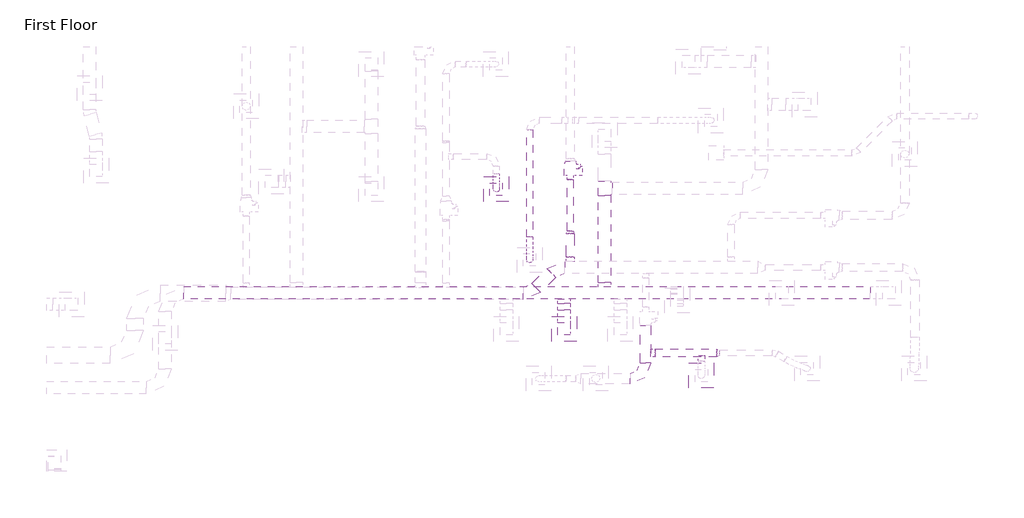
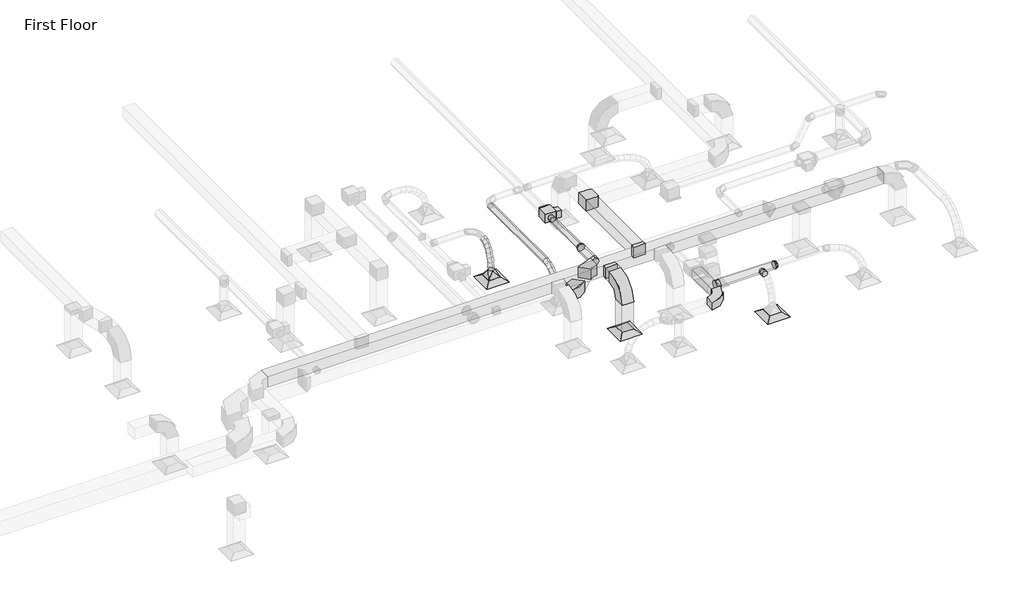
# One storey, part 20 of 61: 13 duct fittings, 12 duct segments, 3 air terminals, 1 proxy.
"""IFC4 building model written with IfcOpenShell, lengths in millimetres."""

from ifc_helpers import new_model, si_unit, point, frame, frame_2d, origin, place, context, project, spatial, polyline, circle_curve, ellipse_curve, trimmed, segment, composite_curve, outline, extrude, transform, mapped, element, save
from ifc_brep_helpers import plane_surface, cylinder_surface, advanced_brep
from components import m_exhaust_grill_er_600_x_600_face_300_x_300_connection_ff221211, m_vav_unit_single_duct_150_mm_ffdab17b, m_rectangular_elbow_radius_1_5_w_5bed5c13, m_rectangular_elbow_radius_1_5_w_8951400e, m_rectangular_elbow_radius_1_5_w_86011e9f, m_rectangular_takeoff_standard_c00386d1, m_rectangular_takeoff_standard_b44bfa45, m_rectangular_tee_standard_bf2a2b7f, m_rectangular_to_round_transition_angle_45_degree_8f201c83, m_round_takeoff_standard_e1559ea3, m_round_takeoff_standard_45336e8a, m_round_takeoff_standard_81095b1e, m_round_transition_angle_45_degree_6d7b59ce

model = new_model("IFC4")

# Units and contexts
model_context = context("Model", 3, world=origin())
ifc_project = project(units=[si_unit("LENGTHUNIT", "METRE", prefix="MILLI")], contexts=[model_context])

# Site, building, storey
site = spatial("IfcSite", under=ifc_project)
building = spatial("IfcBuilding", under=site)
storey = spatial("IfcBuildingStorey", under=building, Name="First Floor", Elevation=0.0)

# Air terminals
placement = place(None, origin())
m_exhaust_grill_er_600_x_600_face_300_x_300_connection_shape = m_exhaust_grill_er_600_x_600_face_300_x_300_connection_ff221211(model_context)
element("IfcAirTerminal", 1, ObjectType="M_Return Register : RR-600 x 600 Face 300 x 300 Connection", at=placement, inside=storey, context=model_context, shape_type="MappedRepresentation", body=[
    mapped(m_exhaust_grill_er_600_x_600_face_300_x_300_connection_shape, transform((-9239.2747853, 12189.4764857, 2680.0), x_axis=(1.0, 0.0, 0.0), y_axis=(0.0, 1.0, 0.0), z_axis=(0.0, 0.0, 1.0))),
])
element("IfcAirTerminal", 2, ObjectType="M_Supply Diffuser : SD-600 x 600 Face 300 x 300 Connection", at=placement, inside=storey, context=model_context, shape_type="MappedRepresentation", body=[
    mapped(m_exhaust_grill_er_600_x_600_face_300_x_300_connection_shape, transform((-5942.8549791, 11067.2410676, 2680.0), x_axis=(1.0, 0.0, 0.0), y_axis=(0.0, 1.0, 0.0), z_axis=(0.0, 0.0, 1.0))),
])
element("IfcAirTerminal", 3, ObjectType="M_Supply Diffuser : SD-600 x 600 Face 300 x 300 Connection", at=placement, inside=storey, context=model_context, shape_type="MappedRepresentation", body=[
    mapped(m_exhaust_grill_er_600_x_600_face_300_x_300_connection_shape, transform((-10867.3062165, 15548.9958677, 2680.0), x_axis=(1.0, 0.0, 0.0), y_axis=(0.0, 1.0, 0.0), z_axis=(0.0, 0.0, 1.0))),
])

# Proxy
m_vav_unit_single_duct_150_mm_shape = m_vav_unit_single_duct_150_mm_ffdab17b(model_context)
element("IfcBuildingElementProxy", 4, Name="M_VAV Unit - Single Duct : 150 mm", ObjectType="M_VAV Unit - Single Duct : 150 mm", at=placement, inside=storey, context=model_context, shape_type="MappedRepresentation", body=[
    mapped(m_vav_unit_single_duct_150_mm_shape, transform((-9089.2747853, 15877.6514222, 3500.0), x_axis=(0.0, 1.0, 0.0), y_axis=(-1.0, 0.0, 0.0), z_axis=(0.0, 0.0, 1.0))),
])

# Duct fittings
m_rectangular_elbow_radius_1_5_w_shape = m_rectangular_elbow_radius_1_5_w_5bed5c13(model_context)
element("IfcDuctFitting", 5, ObjectType="M_Rectangular Elbow - Radius : 1.5 W", at=placement, inside=storey, context=model_context, shape_type="MappedRepresentation", body=[
    mapped(m_rectangular_elbow_radius_1_5_w_shape, transform((-9413.2072799, 13666.1148697, 3609.5), x_axis=(-0.9999999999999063, 0.0, 4.330108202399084e-07), y_axis=(0.0, -0.9999999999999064, -4.330108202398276e-07), z_axis=(4.3301082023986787e-07, -4.3301082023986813e-07, 0.9999999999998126))),
])
element("IfcDuctFitting", 6, ObjectType="M_Rectangular Elbow - Radius : 1.5 W", at=placement, inside=storey, context=model_context, shape_type="MappedRepresentation", body=[
    mapped(m_rectangular_elbow_radius_1_5_w_shape, transform((-10035.3729051, 13043.9492446, 3609.5), x_axis=(1.0, 0.0, 0.0), y_axis=(0.0, 1.0, 0.0), z_axis=(0.0, 0.0, 1.0))),
])
m_rectangular_elbow_radius_1_5_w_2_shape = m_rectangular_elbow_radius_1_5_w_8951400e(model_context)
element("IfcDuctFitting", 7, ObjectType="M_Rectangular Elbow - Radius : 1.5 W", at=placement, inside=storey, context=model_context, shape_type="MappedRepresentation", body=[
    mapped(m_rectangular_elbow_radius_1_5_w_2_shape, transform((-7280.0, 10997.0419271, 3628.625), x_axis=(1.0, 0.0, 0.0), y_axis=(0.0, 1.0, 0.0), z_axis=(0.0, 0.0, 1.0))),
])
m_rectangular_elbow_radius_1_5_w_3_shape = m_rectangular_elbow_radius_1_5_w_86011e9f(model_context)
element("IfcDuctFitting", 8, ObjectType="M_Rectangular Elbow - Radius : 1.5 W", at=placement, inside=storey, context=model_context, shape_type="MappedRepresentation", body=[
    mapped(m_rectangular_elbow_radius_1_5_w_3_shape, transform((-9239.2747853, 12189.4764857, 4000.0), x_axis=(0.0, -1.0, 0.0), y_axis=(0.0, 0.0, -1.0), z_axis=(1.0, 0.0, 0.0))),
])
m_rectangular_takeoff_standard_shape = m_rectangular_takeoff_standard_c00386d1(model_context)
element("IfcDuctFitting", 9, ObjectType="M_Rectangular Takeoff : Standard", at=placement, inside=storey, context=model_context, shape_type="MappedRepresentation", body=[
    mapped(m_rectangular_takeoff_standard_shape, transform((-9239.2747853, 12904.4648445, 4000.0), x_axis=(0.0, -1.0, 0.0), y_axis=(-1.0, 0.0, 0.0), z_axis=(0.0, 0.0, -1.0))),
])
m_rectangular_takeoff_standard_2_shape = m_rectangular_takeoff_standard_b44bfa45(model_context)
element("IfcDuctFitting", 10, ObjectType="M_Rectangular Takeoff : Standard", at=placement, inside=storey, context=model_context, shape_type="MappedRepresentation", body=[
    mapped(m_rectangular_takeoff_standard_2_shape, transform((-8263.3789506, 13204.4648445, 4000.0), x_axis=(0.0, 1.0, 0.0), y_axis=(1.0, 0.0, 0.0), z_axis=(0.0, 0.0, -1.0))),
])
m_rectangular_tee_standard_shape = m_rectangular_tee_standard_bf2a2b7f(model_context)
element("IfcDuctFitting", 11, ObjectType="M_Rectangular Tee : Standard", at=placement, inside=storey, context=model_context, shape_type="MappedRepresentation", body=[
    mapped(m_rectangular_tee_standard_shape, transform((-8263.3789506, 15569.0358848, 4000.0), x_axis=(0.0, 1.0, 0.0), y_axis=(-1.0, 0.0, 0.0), z_axis=(0.0, 0.0, 1.0))),
])
m_rectangular_to_round_transition_angle_45_degree_shape = m_rectangular_to_round_transition_angle_45_degree_8f201c83(model_context)
element("IfcDuctFitting", 12, ObjectType="M_Rectangular to Round Transition - Angle : 45 Degree", at=placement, inside=storey, context=model_context, shape_type="MappedRepresentation", body=[
    mapped(m_rectangular_to_round_transition_angle_45_degree_shape, transform((-10867.3062165, 15548.9958677, 2781.6), x_axis=(0.0, 0.0, 1.0), y_axis=(1.0, 0.0, 0.0), z_axis=(0.0, 1.0, 0.0))),
])
m_round_takeoff_standard_shape = m_round_takeoff_standard_e1559ea3(model_context)
element("IfcDuctFitting", 13, ObjectType="M_Round Takeoff : Standard", at=placement, inside=storey, context=model_context, shape_type="MappedRepresentation", body=[
    mapped(m_round_takeoff_standard_shape, transform((-5942.8549791, 11514.3322163, 3619.1), x_axis=(0.0, -1.0, 0.0), y_axis=(-1.0, 0.0, 0.0), z_axis=(0.0, 0.0, -1.0))),
])
m_round_takeoff_standard_2_shape = m_round_takeoff_standard_45336e8a(model_context)
element("IfcDuctFitting", 14, ObjectType="M_Round Takeoff : Standard", at=placement, inside=storey, context=model_context, shape_type="MappedRepresentation", body=[
    mapped(m_round_takeoff_standard_2_shape, transform((-7155.0, 11614.3322163, 3619.1), x_axis=(1.0, 0.0, 0.0), y_axis=(0.0, -1.0, 0.0), z_axis=(0.0, 0.0, -1.0))),
])
m_round_takeoff_standard_3_shape = m_round_takeoff_standard_81095b1e(model_context)
element("IfcDuctFitting", 15, ObjectType="M_Round Takeoff : Standard", at=placement, inside=storey, context=model_context, shape_type="MappedRepresentation", body=[
    mapped(m_round_takeoff_standard_3_shape, transform((-9090.1247853, 13816.1148697, 3609.4997745), x_axis=(0.0, 0.9999999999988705, -1.5030505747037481e-06), y_axis=(1.0, 0.0, 0.0), z_axis=(0.0, -1.5030505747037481e-06, -0.9999999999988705))),
])
m_round_transition_angle_45_degree_shape = m_round_transition_angle_45_degree_6d7b59ce(model_context)
element("IfcDuctFitting", 16, ObjectType="M_Round Transition - Angle : 45 Degree", at=placement, inside=storey, context=model_context, shape_type="MappedRepresentation", body=[
    mapped(m_round_transition_angle_45_degree_shape, transform((-5580.0, 11614.3322163, 3619.1), x_axis=(1.0, 0.0, 0.0), y_axis=(0.0, 1.0, 0.0), z_axis=(0.0, 0.0, 1.0))),
])
element("IfcDuctFitting", 17, ObjectType="M_Round Transition - Angle : 45 Degree", at=placement, inside=storey, context=model_context, shape_type="MappedRepresentation", body=[
    mapped(m_round_transition_angle_45_degree_shape, transform((-9090.1247853, 14475.6960834, 3609.4987832), x_axis=(0.0, 0.9999999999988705, -1.5030505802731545e-06), y_axis=(-1.0, 0.0, 0.0), z_axis=(0.0, 1.5030505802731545e-06, 0.9999999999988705))),
])

# Duct segments
element("IfcDuctSegment", 18, ObjectType="Flex - Round", at=placement, inside=storey, context=model_context, shape_type="AdvancedBrep", body=[
    advanced_brep(
    [(-9989.6506734, 14399.0230723, 3619.1), (-10064.6506734, 14412.1819834, 3545.263403), (-10139.6506734, 14399.0230723, 3619.1), (-10064.6506734, 14385.8641613, 3692.936597), (-9989.6506734, 14278.9205549, 3597.6957316), (-10064.6506734, 14303.3626637, 3525.8699882), (-10139.6506734, 14278.9205549, 3597.6957316), (-10064.6506734, 14254.4784461, 3669.5214749), (-9989.6506734, 13851.0402346, 2962.6660172), (-10064.6506734, 13776.593036, 2971.755275), (-10139.6506734, 13851.0402346, 2962.6660172), (-10064.6506734, 13925.4874333, 2953.5767594), (-9989.6506734, 14165.7353767, 3538.8213639), (-10064.6506734, 14208.1599311, 3476.349364), (-10139.6506734, 14165.7353767, 3538.8213639), (-10064.6506734, 14123.3108223, 3601.2933638), (-9989.6506734, 14063.6809853, 3450.4845536), (-10064.6506734, 14118.1363197, 3398.4262235), (-10139.6506734, 14063.6809853, 3450.4845536), (-10064.6506734, 14009.2256509, 3502.5428838), (-9989.6506734, 13976.970828, 3340.6929573), (-10064.6506734, 14039.7788096, 3299.2106715), (-10139.6506734, 13976.970828, 3340.6929573), (-10064.6506734, 13914.1628464, 3382.1752431), (-9989.6506734, 13909.8183522, 3217.4542314), (-10064.6506734, 13978.8014248, 3187.3045188), (-10139.6506734, 13909.8183522, 3217.4542314), (-10064.6506734, 13840.8352796, 3247.6039439), (-9989.6506734, 13866.4370053, 3088.7760325), (-10064.6506734, 13939.9553617, 3072.0789258), (-10139.6506734, 13866.4370053, 3088.7760325), (-10064.6506734, 13792.9186488, 3105.4731392)],
    [
        (0, 1, circle_curve(frame((-10064.6506734, 14399.0230723, 3619.1), z_axis=(0.0, 0.9844879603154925, 0.17545214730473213), x_axis=(1.0, 0.0, 0.0)), 75.0)),
        (1, 2, circle_curve(frame((-10064.6506734, 14399.0230723, 3619.1), z_axis=(0.0, 0.9844879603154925, 0.17545214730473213), x_axis=(1.0, 0.0, 0.0)), 75.0)),
        (2, 3, circle_curve(frame((-10064.6506734, 14399.0230723, 3619.1), z_axis=(0.0, 0.9844879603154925, 0.17545214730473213), x_axis=(1.0, 0.0, 0.0)), 75.0)),
        (3, 0, circle_curve(frame((-10064.6506734, 14399.0230723, 3619.1), z_axis=(0.0, 0.9844879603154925, 0.17545214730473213), x_axis=(1.0, 0.0, 0.0)), 75.0)),
        (0, 4),
        (4, 5, ellipse_curve(frame((-10064.6506734, 14278.9205549, 3597.6957316), z_axis=(0.0, 0.9466869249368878, 0.32215503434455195), x_axis=(0.0, 0.32215503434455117, -0.946686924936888)), 75.8706405, 75.0)),
        (5, 1),
        (5, 6, ellipse_curve(frame((-10064.6506734, 14278.9205549, 3597.6957316), z_axis=(0.0, 0.9466869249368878, 0.32215503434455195), x_axis=(0.0, 0.32215503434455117, -0.946686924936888)), 75.8706405, 75.0)),
        (6, 2),
        (6, 7, ellipse_curve(frame((-10064.6506734, 14278.9205549, 3597.6957316), z_axis=(0.0, 0.9466869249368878, 0.32215503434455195), x_axis=(0.0, 0.32215503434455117, -0.946686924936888)), 75.8706405, 75.0)),
        (7, 3),
        (7, 4, ellipse_curve(frame((-10064.6506734, 14278.9205549, 3597.6957316), z_axis=(0.0, 0.9466869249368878, 0.32215503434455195), x_axis=(0.0, 0.32215503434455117, -0.946686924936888)), 75.8706405, 75.0)),
        (8, 9, circle_curve(frame((-10064.6506734, 13851.0402346, 2962.6660172), z_axis=(0.0, -0.1211901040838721, -0.9926293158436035), x_axis=(1.0, 0.0, 0.0)), 75.0)),
        (9, 10, circle_curve(frame((-10064.6506734, 13851.0402346, 2962.6660172), z_axis=(0.0, -0.1211901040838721, -0.9926293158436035), x_axis=(1.0, 0.0, 0.0)), 75.0)),
        (10, 11, circle_curve(frame((-10064.6506734, 13851.0402346, 2962.6660172), z_axis=(0.0, -0.1211901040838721, -0.9926293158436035), x_axis=(1.0, 0.0, 0.0)), 75.0)),
        (11, 8, circle_curve(frame((-10064.6506734, 13851.0402346, 2962.6660172), z_axis=(0.0, -0.1211901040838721, -0.9926293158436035), x_axis=(1.0, 0.0, 0.0)), 75.0)),
        (4, 12),
        (12, 13, ellipse_curve(frame((-10064.6506734, 14165.7353767, 3538.8213639), z_axis=(0.0, 0.8272736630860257, 0.5617991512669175), x_axis=(0.0, 0.5617991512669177, -0.8272736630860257)), 75.5155189, 75.0)),
        (13, 5),
        (13, 14, ellipse_curve(frame((-10064.6506734, 14165.7353767, 3538.8213639), z_axis=(0.0, 0.8272736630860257, 0.5617991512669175), x_axis=(0.0, 0.5617991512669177, -0.8272736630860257)), 75.5155189, 75.0)),
        (14, 6),
        (14, 15, ellipse_curve(frame((-10064.6506734, 14165.7353767, 3538.8213639), z_axis=(0.0, 0.8272736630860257, 0.5617991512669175), x_axis=(0.0, 0.5617991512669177, -0.8272736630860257)), 75.5155189, 75.0)),
        (15, 7),
        (15, 12, ellipse_curve(frame((-10064.6506734, 14165.7353767, 3538.8213639), z_axis=(0.0, 0.8272736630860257, 0.5617991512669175), x_axis=(0.0, 0.5617991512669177, -0.8272736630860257)), 75.5155189, 75.0)),
        (12, 16),
        (16, 17, ellipse_curve(frame((-10064.6506734, 14063.6809853, 3450.4845536), z_axis=(0.0, 0.6910189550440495, 0.7228366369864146), x_axis=(0.0, 0.7228366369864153, -0.691018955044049)), 75.3356037, 75.0)),
        (17, 13),
        (17, 18, ellipse_curve(frame((-10064.6506734, 14063.6809853, 3450.4845536), z_axis=(0.0, 0.6910189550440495, 0.7228366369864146), x_axis=(0.0, 0.7228366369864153, -0.691018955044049)), 75.3356037, 75.0)),
        (18, 14),
        (18, 19, ellipse_curve(frame((-10064.6506734, 14063.6809853, 3450.4845536), z_axis=(0.0, 0.6910189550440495, 0.7228366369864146), x_axis=(0.0, 0.7228366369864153, -0.691018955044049)), 75.3356037, 75.0)),
        (19, 15),
        (19, 16, ellipse_curve(frame((-10064.6506734, 14063.6809853, 3450.4845536), z_axis=(0.0, 0.6910189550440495, 0.7228366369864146), x_axis=(0.0, 0.7228366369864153, -0.691018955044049)), 75.3356037, 75.0)),
        (16, 20),
        (20, 21, ellipse_curve(frame((-10064.6506734, 13976.970828, 3340.6929573), z_axis=(0.0, 0.5511107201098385, 0.8344321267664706), x_axis=(0.0, 0.8344321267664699, -0.5511107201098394)), 75.27033, 75.0)),
        (21, 17),
        (21, 22, ellipse_curve(frame((-10064.6506734, 13976.970828, 3340.6929573), z_axis=(0.0, 0.5511107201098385, 0.8344321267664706), x_axis=(0.0, 0.8344321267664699, -0.5511107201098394)), 75.27033, 75.0)),
        (22, 18),
        (22, 23, ellipse_curve(frame((-10064.6506734, 13976.970828, 3340.6929573), z_axis=(0.0, 0.5511107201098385, 0.8344321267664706), x_axis=(0.0, 0.8344321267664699, -0.5511107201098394)), 75.27033, 75.0)),
        (23, 19),
        (23, 20, ellipse_curve(frame((-10064.6506734, 13976.970828, 3340.6929573), z_axis=(0.0, 0.5511107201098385, 0.8344321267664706), x_axis=(0.0, 0.8344321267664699, -0.5511107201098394)), 75.27033, 75.0)),
        (20, 24),
        (24, 25, ellipse_curve(frame((-10064.6506734, 13909.8183522, 3217.4542314), z_axis=(0.0, 0.40048007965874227, 0.9163054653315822), x_axis=(0.0, 0.916305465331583, -0.40048007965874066)), 75.2839257, 75.0)),
        (25, 21),
        (25, 26, ellipse_curve(frame((-10064.6506734, 13909.8183522, 3217.4542314), z_axis=(0.0, 0.40048007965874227, 0.9163054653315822), x_axis=(0.0, 0.916305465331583, -0.40048007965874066)), 75.2839257, 75.0)),
        (26, 22),
        (26, 27, ellipse_curve(frame((-10064.6506734, 13909.8183522, 3217.4542314), z_axis=(0.0, 0.40048007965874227, 0.9163054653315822), x_axis=(0.0, 0.916305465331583, -0.40048007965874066)), 75.2839257, 75.0)),
        (27, 23),
        (27, 24, ellipse_curve(frame((-10064.6506734, 13909.8183522, 3217.4542314), z_axis=(0.0, 0.40048007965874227, 0.9163054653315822), x_axis=(0.0, 0.916305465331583, -0.40048007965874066)), 75.2839257, 75.0)),
        (24, 28),
        (28, 29, ellipse_curve(frame((-10064.6506734, 13866.4370053, 3088.7760325), z_axis=(0.0, 0.2214746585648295, 0.9751661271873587), x_axis=(0.0, 0.9751661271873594, -0.2214746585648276)), 75.390597, 75.0)),
        (29, 25),
        (29, 30, ellipse_curve(frame((-10064.6506734, 13866.4370053, 3088.7760325), z_axis=(0.0, 0.2214746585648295, 0.9751661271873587), x_axis=(0.0, 0.9751661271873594, -0.2214746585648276)), 75.390597, 75.0)),
        (30, 26),
        (30, 31, ellipse_curve(frame((-10064.6506734, 13866.4370053, 3088.7760325), z_axis=(0.0, 0.2214746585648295, 0.9751661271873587), x_axis=(0.0, 0.9751661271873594, -0.2214746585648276)), 75.390597, 75.0)),
        (31, 27),
        (31, 28, ellipse_curve(frame((-10064.6506734, 13866.4370053, 3088.7760325), z_axis=(0.0, 0.2214746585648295, 0.9751661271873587), x_axis=(0.0, 0.9751661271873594, -0.2214746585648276)), 75.390597, 75.0)),
        (28, 8),
        (11, 29),
        (10, 30),
        (9, 31),
    ],
    [
        plane_surface(frame((-10064.6506734, 14412.1819834, 3545.263403), z_axis=(0.0, 0.9844879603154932, 0.17545214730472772), x_axis=(1.0, 0.0, 0.0))),
        cylinder_surface(frame((-10064.6506734, 14399.0230723, 3619.1), z_axis=(0.0, 0.9844879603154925, 0.17545214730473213), x_axis=(1.0, 0.0, 0.0)), 75.0),
        plane_surface(frame((-10064.6506734, 13925.4874333, 2953.5767594), z_axis=(0.0, -0.12119010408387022, -0.9926293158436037), x_axis=(1.0, 0.0, 0.0))),
        cylinder_surface(frame((-10064.6506734, 14278.9205549, 3597.6957316), z_axis=(0.0, 0.8871588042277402, 0.46146425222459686), x_axis=(1.0, 0.0, 0.0)), 75.0),
        cylinder_surface(frame((-10064.6506734, 14165.7353767, 3538.8213639), z_axis=(0.0, 0.7560934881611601, 0.654463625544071), x_axis=(1.0, 0.0, 0.0)), 75.0),
        cylinder_surface(frame((-10064.6506734, 14063.6809853, 3450.4845536), z_axis=(0.0, 0.6197877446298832, 0.7847694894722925), x_axis=(1.0, 0.0, 0.0)), 75.0),
        cylinder_surface(frame((-10064.6506734, 13976.970828, 3340.6929573), z_axis=(0.0, 0.47847511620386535, 0.8781011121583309), x_axis=(1.0, 0.0, 0.0)), 75.0),
        cylinder_surface(frame((-10064.6506734, 13909.8183522, 3217.4542314), z_axis=(0.0, 0.3194643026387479, 0.9475983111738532), x_axis=(1.0, 0.0, 0.0)), 75.0),
        cylinder_surface(frame((-10064.6506734, 13866.4370053, 3088.7760325), z_axis=(0.0, 0.1211901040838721, 0.9926293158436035), x_axis=(1.0, 0.0, 0.0)), 75.0),
    ],
    [
        (0, [[1, 2, 3, 4]]),
        (1, [[-1, 5, 6, 7]]),
        (1, [[-2, -7, 8, 9]]),
        (1, [[-3, -9, 10, 11]]),
        (1, [[-4, -11, 12, -5]]),
        (2, [[13, 14, 15, 16]]),
        (3, [[-6, 17, 18, 19]]),
        (3, [[-8, -19, 20, 21]]),
        (3, [[-10, -21, 22, 23]]),
        (3, [[-12, -23, 24, -17]]),
        (4, [[-18, 25, 26, 27]]),
        (4, [[-20, -27, 28, 29]]),
        (4, [[-22, -29, 30, 31]]),
        (4, [[-24, -31, 32, -25]]),
        (5, [[-26, 33, 34, 35]]),
        (5, [[-28, -35, 36, 37]]),
        (5, [[-30, -37, 38, 39]]),
        (5, [[-32, -39, 40, -33]]),
        (6, [[-34, 41, 42, 43]]),
        (6, [[-36, -43, 44, 45]]),
        (6, [[-38, -45, 46, 47]]),
        (6, [[-40, -47, 48, -41]]),
        (7, [[-42, 49, 50, 51]]),
        (7, [[-44, -51, 52, 53]]),
        (7, [[-46, -53, 54, 55]]),
        (7, [[-48, -55, 56, -49]]),
        (8, [[-50, 57, -16, 58]]),
        (8, [[-52, -58, -15, 59]]),
        (8, [[-54, -59, -14, 60]]),
        (8, [[-56, -60, -13, -57]]),
    ],
),
])
element("IfcDuctSegment", 19, ObjectType="Flex - Round", at=placement, inside=storey, context=model_context, shape_type="AdvancedBrep", body=[
    advanced_brep(
    [(-10792.3062165, 15911.2313331, 3619.1), (-10867.3062165, 15926.3379395, 3545.6371492), (-10942.3062165, 15911.2313331, 3619.1), (-10867.3062165, 15896.1247267, 3692.5628508), (-10792.3062165, 15823.9134263, 3601.1442954), (-10867.3062165, 15853.2252977, 3530.6025584), (-10942.3062165, 15823.9134263, 3601.1442954), (-10867.3062165, 15794.6015549, 3671.6860324), (-10792.3062165, 15548.9958677, 2962.6660172), (-10867.3062165, 15474.1016391, 2966.6477902), (-10942.3062165, 15548.9958677, 2962.6660172), (-10867.3062165, 15623.8900963, 2958.6842441), (-10792.3062165, 15749.1989127, 3551.6765665), (-10867.3062165, 15799.6671404, 3495.1422405), (-10942.3062165, 15749.1989127, 3551.6765665), (-10867.3062165, 15698.730685, 3608.2108925), (-10792.3062165, 15686.7915919, 3477.2958907), (-10867.3062165, 15749.086457, 3434.8572392), (-10942.3062165, 15686.7915919, 3477.2958907), (-10867.3062165, 15624.4967268, 3519.7345422), (-10792.3062165, 15636.3952636, 3384.6013454), (-10867.3062165, 15704.8554534, 3353.5026465), (-10942.3062165, 15636.3952636, 3384.6013454), (-10867.3062165, 15567.9350737, 3415.7000443), (-10792.3062165, 15597.7137273, 3280.192008), (-10867.3062165, 15669.4878487, 3258.0382848), (-10942.3062165, 15597.7137273, 3280.192008), (-10867.3062165, 15525.9396059, 3302.3457313), (-10792.3062165, 15570.4507829, 3170.6669559), (-10867.3062165, 15644.0971486, 3156.0347114), (-10942.3062165, 15570.4507829, 3170.6669559), (-10867.3062165, 15496.8044171, 3185.2992005), (-10792.3062165, 15554.3102298, 3062.6252665), (-10867.3062165, 15629.0148229, 3055.0765878), (-10942.3062165, 15554.3102298, 3062.6252665), (-10867.3062165, 15479.6056367, 3070.1739452)],
    [
        (0, 1, circle_curve(frame((-10867.3062165, 15911.2313331, 3619.1), z_axis=(0.0, 0.9795046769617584, 0.20142141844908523), x_axis=(1.0, 0.0, 0.0)), 75.0)),
        (1, 2, circle_curve(frame((-10867.3062165, 15911.2313331, 3619.1), z_axis=(0.0, 0.9795046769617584, 0.20142141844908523), x_axis=(1.0, 0.0, 0.0)), 75.0)),
        (2, 3, circle_curve(frame((-10867.3062165, 15911.2313331, 3619.1), z_axis=(0.0, 0.9795046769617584, 0.20142141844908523), x_axis=(1.0, 0.0, 0.0)), 75.0)),
        (3, 0, circle_curve(frame((-10867.3062165, 15911.2313331, 3619.1), z_axis=(0.0, 0.9795046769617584, 0.20142141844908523), x_axis=(1.0, 0.0, 0.0)), 75.0)),
        (0, 4),
        (4, 5, ellipse_curve(frame((-10867.3062165, 15823.9134263, 3601.1442954), z_axis=(0.0, 0.92345070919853, 0.3837170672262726), x_axis=(0.0, 0.3837170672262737, -0.9234507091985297)), 76.3892824, 75.0)),
        (5, 1),
        (5, 6, ellipse_curve(frame((-10867.3062165, 15823.9134263, 3601.1442954), z_axis=(0.0, 0.92345070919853, 0.3837170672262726), x_axis=(0.0, 0.3837170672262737, -0.9234507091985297)), 76.3892824, 75.0)),
        (6, 2),
        (6, 7, ellipse_curve(frame((-10867.3062165, 15823.9134263, 3601.1442954), z_axis=(0.0, 0.92345070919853, 0.3837170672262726), x_axis=(0.0, 0.3837170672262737, -0.9234507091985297)), 76.3892824, 75.0)),
        (7, 3),
        (7, 4, ellipse_curve(frame((-10867.3062165, 15823.9134263, 3601.1442954), z_axis=(0.0, 0.92345070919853, 0.3837170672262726), x_axis=(0.0, 0.3837170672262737, -0.9234507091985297)), 76.3892824, 75.0)),
        (8, 9, circle_curve(frame((-10867.3062165, 15548.9958677, 2962.6660172), z_axis=(0.0, -0.05309030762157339, -0.998589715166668), x_axis=(1.0, 0.0, 0.0)), 75.0)),
        (9, 10, circle_curve(frame((-10867.3062165, 15548.9958677, 2962.6660172), z_axis=(0.0, -0.05309030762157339, -0.998589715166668), x_axis=(1.0, 0.0, 0.0)), 75.0)),
        (10, 11, circle_curve(frame((-10867.3062165, 15548.9958677, 2962.6660172), z_axis=(0.0, -0.05309030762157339, -0.998589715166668), x_axis=(1.0, 0.0, 0.0)), 75.0)),
        (11, 8, circle_curve(frame((-10867.3062165, 15548.9958677, 2962.6660172), z_axis=(0.0, -0.05309030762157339, -0.998589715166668), x_axis=(1.0, 0.0, 0.0)), 75.0)),
        (4, 12),
        (12, 13, ellipse_curve(frame((-10867.3062165, 15749.1989127, 3551.6765665), z_axis=(0.0, 0.7459956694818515, 0.665950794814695), x_axis=(0.0, 0.6659507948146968, -0.74599566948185)), 75.7837187, 75.0)),
        (13, 5),
        (13, 14, ellipse_curve(frame((-10867.3062165, 15749.1989127, 3551.6765665), z_axis=(0.0, 0.7459956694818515, 0.665950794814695), x_axis=(0.0, 0.6659507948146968, -0.74599566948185)), 75.7837187, 75.0)),
        (14, 6),
        (14, 15, ellipse_curve(frame((-10867.3062165, 15749.1989127, 3551.6765665), z_axis=(0.0, 0.7459956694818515, 0.665950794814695), x_axis=(0.0, 0.6659507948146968, -0.74599566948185)), 75.7837187, 75.0)),
        (15, 7),
        (15, 12, ellipse_curve(frame((-10867.3062165, 15749.1989127, 3551.6765665), z_axis=(0.0, 0.7459956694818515, 0.665950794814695), x_axis=(0.0, 0.6659507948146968, -0.74599566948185)), 75.7837187, 75.0)),
        (12, 16),
        (16, 17, ellipse_curve(frame((-10867.3062165, 15686.7915919, 3477.2958907), z_axis=(0.0, 0.5630187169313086, 0.8264441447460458), x_axis=(0.0, 0.8264441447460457, -0.5630187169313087)), 75.3769816, 75.0)),
        (17, 13),
        (17, 18, ellipse_curve(frame((-10867.3062165, 15686.7915919, 3477.2958907), z_axis=(0.0, 0.5630187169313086, 0.8264441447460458), x_axis=(0.0, 0.8264441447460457, -0.5630187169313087)), 75.3769816, 75.0)),
        (18, 14),
        (18, 19, ellipse_curve(frame((-10867.3062165, 15686.7915919, 3477.2958907), z_axis=(0.0, 0.5630187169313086, 0.8264441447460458), x_axis=(0.0, 0.8264441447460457, -0.5630187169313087)), 75.3769816, 75.0)),
        (19, 15),
        (19, 16, ellipse_curve(frame((-10867.3062165, 15686.7915919, 3477.2958907), z_axis=(0.0, 0.5630187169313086, 0.8264441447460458), x_axis=(0.0, 0.8264441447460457, -0.5630187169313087)), 75.3769816, 75.0)),
        (16, 20),
        (20, 21, ellipse_curve(frame((-10867.3062165, 15636.3952636, 3384.6013454), z_axis=(0.0, 0.4135872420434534, 0.9104644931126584), x_axis=(0.0, 0.9104644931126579, -0.4135872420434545)), 75.1925972, 75.0)),
        (21, 17),
        (21, 22, ellipse_curve(frame((-10867.3062165, 15636.3952636, 3384.6013454), z_axis=(0.0, 0.4135872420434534, 0.9104644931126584), x_axis=(0.0, 0.9104644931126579, -0.4135872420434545)), 75.1925972, 75.0)),
        (22, 18),
        (22, 23, ellipse_curve(frame((-10867.3062165, 15636.3952636, 3384.6013454), z_axis=(0.0, 0.4135872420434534, 0.9104644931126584), x_axis=(0.0, 0.9104644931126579, -0.4135872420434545)), 75.1925972, 75.0)),
        (23, 19),
        (23, 20, ellipse_curve(frame((-10867.3062165, 15636.3952636, 3384.6013454), z_axis=(0.0, 0.4135872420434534, 0.9104644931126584), x_axis=(0.0, 0.9104644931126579, -0.4135872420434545)), 75.1925972, 75.0)),
        (20, 24),
        (24, 25, ellipse_curve(frame((-10867.3062165, 15597.7137273, 3280.192008), z_axis=(0.0, 0.2949294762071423, 0.9555190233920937), x_axis=(0.0, 0.9555190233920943, -0.2949294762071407)), 75.1153244, 75.0)),
        (25, 21),
        (25, 26, ellipse_curve(frame((-10867.3062165, 15597.7137273, 3280.192008), z_axis=(0.0, 0.2949294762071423, 0.9555190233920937), x_axis=(0.0, 0.9555190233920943, -0.2949294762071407)), 75.1153244, 75.0)),
        (26, 22),
        (26, 27, ellipse_curve(frame((-10867.3062165, 15597.7137273, 3280.192008), z_axis=(0.0, 0.2949294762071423, 0.9555190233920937), x_axis=(0.0, 0.9555190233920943, -0.2949294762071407)), 75.1153244, 75.0)),
        (27, 23),
        (27, 24, ellipse_curve(frame((-10867.3062165, 15597.7137273, 3280.192008), z_axis=(0.0, 0.2949294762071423, 0.9555190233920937), x_axis=(0.0, 0.9555190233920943, -0.2949294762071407)), 75.1153244, 75.0)),
        (24, 28),
        (28, 29, ellipse_curve(frame((-10867.3062165, 15570.4507829, 3170.6669559), z_axis=(0.0, 0.19487344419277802, 0.9808283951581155), x_axis=(0.0, 0.9808283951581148, -0.1948734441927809)), 75.0858826, 75.0)),
        (29, 25),
        (29, 30, ellipse_curve(frame((-10867.3062165, 15570.4507829, 3170.6669559), z_axis=(0.0, 0.19487344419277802, 0.9808283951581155), x_axis=(0.0, 0.9808283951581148, -0.1948734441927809)), 75.0858826, 75.0)),
        (30, 26),
        (30, 31, ellipse_curve(frame((-10867.3062165, 15570.4507829, 3170.6669559), z_axis=(0.0, 0.19487344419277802, 0.9808283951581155), x_axis=(0.0, 0.9808283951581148, -0.1948734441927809)), 75.0858826, 75.0)),
        (31, 27),
        (31, 28, ellipse_curve(frame((-10867.3062165, 15570.4507829, 3170.6669559), z_axis=(0.0, 0.19487344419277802, 0.9808283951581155), x_axis=(0.0, 0.9808283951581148, -0.1948734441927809)), 75.0858826, 75.0)),
        (28, 32),
        (32, 33, ellipse_curve(frame((-10867.3062165, 15554.3102298, 3062.6252665), z_axis=(0.0, 0.10053509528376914, 0.9949335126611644), x_axis=(0.0, 0.9949335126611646, -0.10053509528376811)), 75.0850103, 75.0)),
        (33, 29),
        (33, 34, ellipse_curve(frame((-10867.3062165, 15554.3102298, 3062.6252665), z_axis=(0.0, 0.10053509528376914, 0.9949335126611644), x_axis=(0.0, 0.9949335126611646, -0.10053509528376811)), 75.0850103, 75.0)),
        (34, 30),
        (34, 35, ellipse_curve(frame((-10867.3062165, 15554.3102298, 3062.6252665), z_axis=(0.0, 0.10053509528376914, 0.9949335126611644), x_axis=(0.0, 0.9949335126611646, -0.10053509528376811)), 75.0850103, 75.0)),
        (35, 31),
        (35, 32, ellipse_curve(frame((-10867.3062165, 15554.3102298, 3062.6252665), z_axis=(0.0, 0.10053509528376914, 0.9949335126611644), x_axis=(0.0, 0.9949335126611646, -0.10053509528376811)), 75.0850103, 75.0)),
        (32, 8),
        (11, 33),
        (10, 34),
        (9, 35),
    ],
    [
        plane_surface(frame((-10867.3062165, 15926.3379395, 3545.6371492), z_axis=(0.0, 0.9795046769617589, 0.2014214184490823), x_axis=(1.0, 0.0, 0.0))),
        cylinder_surface(frame((-10867.3062165, 15911.2313331, 3619.1), z_axis=(0.0, 0.9795046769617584, 0.20142141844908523), x_axis=(1.0, 0.0, 0.0)), 75.0),
        plane_surface(frame((-10867.3062165, 15623.8900963, 2958.6842441), z_axis=(0.0, -0.05309030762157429, -0.9985897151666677), x_axis=(1.0, 0.0, 0.0))),
        cylinder_surface(frame((-10867.3062165, 15823.9134263, 3601.1442954), z_axis=(0.0, 0.8338073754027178, 0.5520554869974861), x_axis=(1.0, 0.0, 0.0)), 75.0),
        cylinder_surface(frame((-10867.3062165, 15749.1989127, 3551.6765665), z_axis=(0.0, 0.6427545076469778, 0.7660722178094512), x_axis=(1.0, 0.0, 0.0)), 75.0),
        cylinder_surface(frame((-10867.3062165, 15686.7915919, 3477.2958907), z_axis=(0.0, 0.4776512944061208, 0.8785495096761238), x_axis=(1.0, 0.0, 0.0)), 75.0),
        cylinder_surface(frame((-10867.3062165, 15636.3952636, 3384.6013454), z_axis=(0.0, 0.34740447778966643, 0.9377153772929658), x_axis=(1.0, 0.0, 0.0)), 75.0),
        cylinder_surface(frame((-10867.3062165, 15597.7137273, 3280.192008), z_axis=(0.0, 0.24154886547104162, 0.9703886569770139), x_axis=(1.0, 0.0, 0.0)), 75.0),
        cylinder_surface(frame((-10867.3062165, 15570.4507829, 3170.6669559), z_axis=(0.0, 0.14775223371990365, 0.9890244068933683), x_axis=(1.0, 0.0, 0.0)), 75.0),
        cylinder_surface(frame((-10867.3062165, 15554.3102298, 3062.6252665), z_axis=(0.0, 0.05309030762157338, 0.9985897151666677), x_axis=(1.0, 0.0, 0.0)), 75.0),
    ],
    [
        (0, [[1, 2, 3, 4]]),
        (1, [[-1, 5, 6, 7]]),
        (1, [[-2, -7, 8, 9]]),
        (1, [[-3, -9, 10, 11]]),
        (1, [[-4, -11, 12, -5]]),
        (2, [[13, 14, 15, 16]]),
        (3, [[-6, 17, 18, 19]]),
        (3, [[-8, -19, 20, 21]]),
        (3, [[-10, -21, 22, 23]]),
        (3, [[-12, -23, 24, -17]]),
        (4, [[-18, 25, 26, 27]]),
        (4, [[-20, -27, 28, 29]]),
        (4, [[-22, -29, 30, 31]]),
        (4, [[-24, -31, 32, -25]]),
        (5, [[-26, 33, 34, 35]]),
        (5, [[-28, -35, 36, 37]]),
        (5, [[-30, -37, 38, 39]]),
        (5, [[-32, -39, 40, -33]]),
        (6, [[-34, 41, 42, 43]]),
        (6, [[-36, -43, 44, 45]]),
        (6, [[-38, -45, 46, 47]]),
        (6, [[-40, -47, 48, -41]]),
        (7, [[-42, 49, 50, 51]]),
        (7, [[-44, -51, 52, 53]]),
        (7, [[-46, -53, 54, 55]]),
        (7, [[-48, -55, 56, -49]]),
        (8, [[-50, 57, 58, 59]]),
        (8, [[-52, -59, 60, 61]]),
        (8, [[-54, -61, 62, 63]]),
        (8, [[-56, -63, 64, -57]]),
        (9, [[-58, 65, -16, 66]]),
        (9, [[-60, -66, -15, 67]]),
        (9, [[-62, -67, -14, 68]]),
        (9, [[-64, -68, -13, -65]]),
    ],
),
])
element("IfcDuctSegment", 20, ObjectType="Radius Elbows / Taps", at=placement, inside=storey, context=model_context, shape_type="SweptSolid", body=[
    extrude(outline(polyline([(-9089.2747853, 12339.4764857), (-9089.2747853, 12039.4764857), (-9389.2747853, 12039.4764857), (-9389.2747853, 12339.4764857), (-9089.2747853, 12339.4764857)])), frame((0.0, 0.0, 2781.6), z_axis=(0.0, 0.0, 1.0), x_axis=(1.0, 0.0, 0.0)), (0.0, 0.0, 1.0), 768.4),
])
element("IfcDuctSegment", 21, ObjectType="Radius Elbows / Taps", at=placement, inside=storey, context=model_context, shape_type="SweptSolid", body=[
    extrude(outline(polyline([(-9389.2747853, 12804.4648445), (-9089.2747853, 12804.4648445), (-9089.2747853, 12639.4764857), (-9389.2747853, 12639.4764857), (-9389.2747853, 12804.4648445)])), frame((0.0, 0.0, 3850.0), z_axis=(0.0, 0.0, 1.0), x_axis=(1.0, 0.0, 0.0)), (0.0, 0.0, 1.0), 300.0),
])
element("IfcDuctSegment", 22, ObjectType="Radius Elbows / Taps", at=placement, inside=storey, context=model_context, shape_type="SweptSolid", body=[
    extrude(outline(polyline([(-8413.3789506, 15394.0358848), (-8113.3789506, 15394.0358848), (-8113.3789506, 13304.4648445), (-8413.3789506, 13304.4648445), (-8413.3789506, 15394.0358848)])), frame((0.0, 0.0, 3850.0), z_axis=(0.0, 0.0, 1.0), x_axis=(1.0, 0.0, 0.0)), (0.0, 0.0, 1.0), 300.0),
])
element("IfcDuctSegment", 23, ObjectType="Radius Elbows / Taps", at=placement, inside=storey, context=model_context, shape_type="SweptSolid", body=[
    extrude(outline(polyline([(-7405.0, 12267.8934081), (-7155.0, 12267.8934081), (-7155.0, 11372.0419271), (-7405.0, 11372.0419271), (-7405.0, 12267.8934081)])), frame((0.0, 0.0, 3528.625), z_axis=(0.0, 0.0, 1.0), x_axis=(1.0, 0.0, 0.0)), (0.0, 0.0, 1.0), 200.0),
])
element("IfcDuctSegment", 24, ObjectType="Radius Elbows / Taps", at=placement, inside=storey, context=model_context, shape_type="SweptSolid", body=[
    extrude(outline(polyline([(-9651.0752455, 13640.3789384), (-9438.9432112, 13428.2469041), (-9797.5049394, 13069.6851759), (-10009.6369738, 13281.8172102), (-9651.0752455, 13640.3789384)])), frame((0.0, 0.0, 3459.5), z_axis=(0.0, 0.0, 1.0), x_axis=(1.0, 0.0, 0.0)), (0.0, 0.0, 1.0), 300.0),
])
element("IfcDuctSegment", 25, ObjectType="Radius Elbows / Taps", at=placement, inside=storey, context=model_context, shape_type="SweptSolid", body=[
    extrude(outline(polyline([(-1894.6339581, 13204.4648445), (-1894.6339581, 12904.4648445), (-18365.882948, 12904.4648445), (-18365.882948, 13204.4648445), (-1894.6339581, 13204.4648445)])), frame((0.0, 0.0, 3850.0), z_axis=(0.0, 0.0, 1.0), x_axis=(1.0, 0.0, 0.0)), (0.0, 0.0, 1.0), 300.0),
])
element("IfcDuctSegment", 26, ObjectType="Taps", at=placement, inside=storey, context=model_context, shape_type="SweptSolid", body=[
    extrude(outline(composite_curve([segment(trimmed(circle_curve(frame_2d((11614.3322163, 3619.1)), 100.0), [point((11514.3322163, 3619.1))], [point((11614.3322163, 3719.1))], False, "CARTESIAN"), True, "CONTINUOUS"), segment(trimmed(circle_curve(frame_2d((11614.3322163, 3619.1)), 100.0), [point((11614.3322163, 3719.1))], [point((11714.3322163, 3619.1))], False, "CARTESIAN"), True, "CONTINUOUS"), segment(trimmed(circle_curve(frame_2d((11614.3322163, 3619.1)), 100.0), [point((11714.3322163, 3619.1))], [point((11614.3322163, 3519.1))], False, "CARTESIAN"), True, "CONTINUOUS"), segment(trimmed(circle_curve(frame_2d((11614.3322163, 3619.1)), 100.0), [point((11614.3322163, 3519.1))], [point((11514.3322163, 3619.1))], False, "CARTESIAN"), True, "CONTINUOUS")], self_intersect=False)), frame((-7055.0, 0.0, 0.0), z_axis=(1.0, 0.0, 0.0), x_axis=(0.0, 1.0, 0.0)), (0.0, 0.0, 1.0), 1475.0),
])
element("IfcDuctSegment", 27, ObjectType="Taps", at=placement, inside=storey, context=model_context, shape_type="SweptSolid", body=[
    extrude(outline(composite_curve([segment(trimmed(circle_curve(frame_2d((3619.1, -10064.6506734)), 75.0), [point((3619.1, -10139.6506734))], [point((3544.1, -10064.6506734))], False, "CARTESIAN"), True, "CONTINUOUS"), segment(trimmed(circle_curve(frame_2d((3619.1, -10064.6506734)), 75.0), [point((3544.1, -10064.6506734))], [point((3619.1, -9989.6506734))], False, "CARTESIAN"), True, "CONTINUOUS"), segment(trimmed(circle_curve(frame_2d((3619.1, -10064.6506734)), 75.0), [point((3619.1, -9989.6506734))], [point((3694.1, -10064.6506734))], False, "CARTESIAN"), True, "CONTINUOUS"), segment(trimmed(circle_curve(frame_2d((3619.1, -10064.6506734)), 75.0), [point((3694.1, -10064.6506734))], [point((3619.1, -10139.6506734))], False, "CARTESIAN"), True, "CONTINUOUS")], self_intersect=False)), frame((0.0, 14399.0230723, 0.0), z_axis=(0.0, 1.0, 0.0), x_axis=(0.0, 0.0, 1.0)), (0.0, 0.0, 1.0), 2575.0),
])
element("IfcDuctSegment", 28, ObjectType="Taps", at=placement, inside=storey, context=model_context, shape_type="SweptSolid", body=[
    extrude(outline(composite_curve([segment(trimmed(circle_curve(frame_2d((0.0, -75.0)), 75.0), [point((0.0, 0.0))], [point((74.9999999, -75.0))], False, "CARTESIAN"), True, "CONTINUOUS"), segment(trimmed(circle_curve(frame_2d((0.0, -75.0)), 75.0), [point((74.9999999, -75.0))], [point((0.0, -150.0))], False, "CARTESIAN"), True, "CONTINUOUS"), segment(trimmed(circle_curve(frame_2d((0.0, -75.0)), 75.0), [point((0.0, -150.0))], [point((-75.0, -75.0))], False, "CARTESIAN"), True, "CONTINUOUS"), segment(trimmed(circle_curve(frame_2d((0.0, -75.0)), 75.0), [point((-75.0, -75.0))], [point((0.0, 0.0))], False, "CARTESIAN"), True, "CONTINUOUS")], self_intersect=False)), frame((-9165.1247853, 14536.0514225, 3609.4986924), z_axis=(0.0, 0.9999999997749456, 2.1215773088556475e-05), x_axis=(0.0, 2.1215773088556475e-05, -0.9999999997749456)), (0.0, 0.0, 1.0), 1240.0),
])
element("IfcDuctSegment", 29, ObjectType="Taps", at=placement, inside=storey, context=model_context, shape_type="SweptSolid", body=[
    extrude(outline(composite_curve([segment(trimmed(circle_curve(frame_2d((3609.4996242, -9090.1247853)), 100.0), [point((3609.4996242, -8990.1247853))], [point((3709.4996242, -9090.1247853))], False, "CARTESIAN"), True, "CONTINUOUS"), segment(trimmed(circle_curve(frame_2d((3609.4996242, -9090.1247853)), 100.0), [point((3709.4996242, -9090.1247853))], [point((3609.4996242, -9190.1247853))], False, "CARTESIAN"), True, "CONTINUOUS"), segment(trimmed(circle_curve(frame_2d((3609.4996242, -9090.1247853)), 100.0), [point((3609.4996242, -9190.1247853))], [point((3509.4996242, -9090.1247853))], False, "CARTESIAN"), True, "CONTINUOUS"), segment(trimmed(circle_curve(frame_2d((3609.4996242, -9090.1247853)), 100.0), [point((3509.4996242, -9090.1247853))], [point((3609.4996242, -8990.1247853))], False, "CARTESIAN"), True, "CONTINUOUS")], self_intersect=False)), frame((0.0, 13916.11502, 0.0), z_axis=(0.0, 1.0, 0.0), x_axis=(0.0, 0.0, 1.0)), (0.0, 0.0, 1.0), 559.5810634),
])

save(model, "model.ifc")
